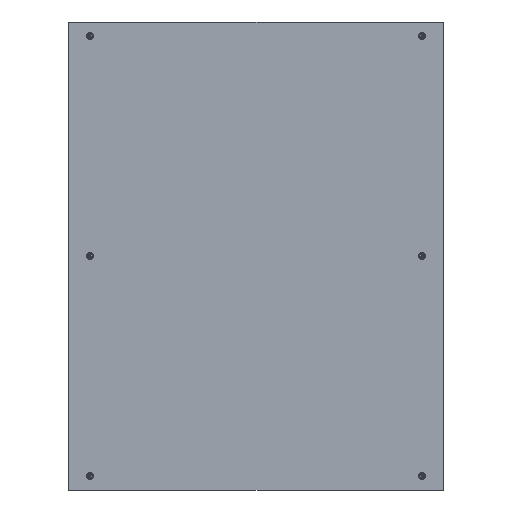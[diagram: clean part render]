
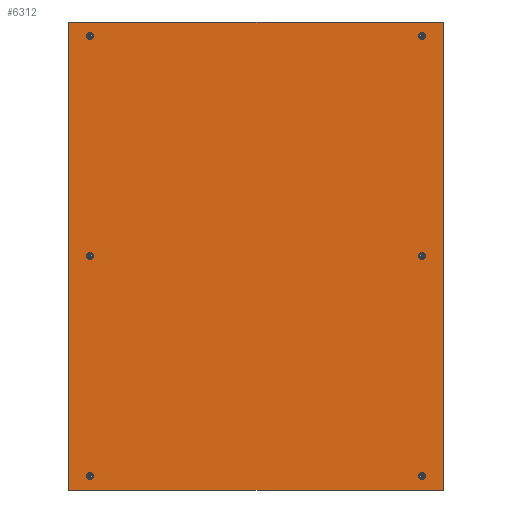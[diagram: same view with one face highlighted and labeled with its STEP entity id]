
A CAD part, left-side view. The second image highlights one B-rep face of the part: STEP entity #6312.
In plain terms, the highlighted planar face has unit normal (-1, 0, 0).
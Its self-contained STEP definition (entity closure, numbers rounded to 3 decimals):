
#533=CIRCLE('',#8146,5.125);
#535=CIRCLE('',#8149,5.125);
#537=CIRCLE('',#8152,5.125);
#539=CIRCLE('',#8155,5.125);
#541=CIRCLE('',#8158,5.125);
#542=CIRCLE('',#8191,5.125);
#1871=ORIENTED_EDGE('',*,*,#2952,.T.);
#1872=ORIENTED_EDGE('',*,*,#2953,.T.);
#1873=ORIENTED_EDGE('',*,*,#2954,.T.);
#1874=ORIENTED_EDGE('',*,*,#2955,.T.);
#1875=ORIENTED_EDGE('',*,*,#2834,.F.);
#1876=ORIENTED_EDGE('',*,*,#2836,.F.);
#1877=ORIENTED_EDGE('',*,*,#2838,.F.);
#1878=ORIENTED_EDGE('',*,*,#2840,.F.);
#1879=ORIENTED_EDGE('',*,*,#2842,.F.);
#1880=ORIENTED_EDGE('',*,*,#2956,.F.);
#2834=EDGE_CURVE('',#3491,#3491,#533,.T.);
#2836=EDGE_CURVE('',#3493,#3493,#535,.T.);
#2838=EDGE_CURVE('',#3495,#3495,#537,.T.);
#2840=EDGE_CURVE('',#3497,#3497,#539,.T.);
#2842=EDGE_CURVE('',#3499,#3499,#541,.T.);
#2952=EDGE_CURVE('',#3582,#3583,#4186,.T.);
#2953=EDGE_CURVE('',#3583,#3584,#4187,.T.);
#2954=EDGE_CURVE('',#3584,#3585,#4188,.T.);
#2955=EDGE_CURVE('',#3585,#3582,#4189,.T.);
#2956=EDGE_CURVE('',#3586,#3586,#542,.T.);
#3491=VERTEX_POINT('',#11400);
#3493=VERTEX_POINT('',#11405);
#3495=VERTEX_POINT('',#11410);
#3497=VERTEX_POINT('',#11415);
#3499=VERTEX_POINT('',#11420);
#3582=VERTEX_POINT('',#11645);
#3583=VERTEX_POINT('',#11646);
#3584=VERTEX_POINT('',#11648);
#3585=VERTEX_POINT('',#11650);
#3586=VERTEX_POINT('',#11653);
#4186=LINE('',#11644,#4792);
#4187=LINE('',#11647,#4793);
#4188=LINE('',#11649,#4794);
#4189=LINE('',#11651,#4795);
#4792=VECTOR('',#9771,1000.);
#4793=VECTOR('',#9772,1000.);
#4794=VECTOR('',#9773,1000.);
#4795=VECTOR('',#9774,1000.);
#5223=EDGE_LOOP('',(#1871,#1872,#1873,#1874));
#5224=EDGE_LOOP('',(#1875));
#5225=EDGE_LOOP('',(#1876));
#5226=EDGE_LOOP('',(#1877));
#5227=EDGE_LOOP('',(#1878));
#5228=EDGE_LOOP('',(#1879));
#5229=EDGE_LOOP('',(#1880));
#5675=FACE_BOUND('',#5223,.T.);
#5676=FACE_BOUND('',#5224,.T.);
#5677=FACE_BOUND('',#5225,.T.);
#5678=FACE_BOUND('',#5226,.T.);
#5679=FACE_BOUND('',#5227,.T.);
#5680=FACE_BOUND('',#5228,.T.);
#5681=FACE_BOUND('',#5229,.T.);
#5984=PLANE('',#8190);
#6312=ADVANCED_FACE('',(#5675,#5676,#5677,#5678,#5679,#5680,#5681),#5984,
 .T.);
#8146=AXIS2_PLACEMENT_3D('',#11399,#9572,#9573);
#8149=AXIS2_PLACEMENT_3D('',#11404,#9578,#9579);
#8152=AXIS2_PLACEMENT_3D('',#11409,#9584,#9585);
#8155=AXIS2_PLACEMENT_3D('',#11414,#9590,#9591);
#8158=AXIS2_PLACEMENT_3D('',#11419,#9596,#9597);
#8190=AXIS2_PLACEMENT_3D('',#11643,#9769,#9770);
#8191=AXIS2_PLACEMENT_3D('',#11652,#9775,#9776);
#9572=DIRECTION('',(-1.,0.,0.));
#9573=DIRECTION('',(0.,-1.,0.));
#9578=DIRECTION('',(-1.,0.,0.));
#9579=DIRECTION('',(0.,-1.,0.));
#9584=DIRECTION('',(-1.,0.,0.));
#9585=DIRECTION('',(0.,-1.,0.));
#9590=DIRECTION('',(-1.,0.,0.));
#9591=DIRECTION('',(0.,-1.,0.));
#9596=DIRECTION('',(-1.,0.,0.));
#9597=DIRECTION('',(0.,-1.,0.));
#9769=DIRECTION('',(-1.,0.,0.));
#9770=DIRECTION('',(0.,-1.,0.));
#9771=DIRECTION('',(0.,0.,-1.));
#9772=DIRECTION('',(0.,-1.,0.));
#9773=DIRECTION('',(0.,0.,1.));
#9774=DIRECTION('',(0.,1.,0.));
#9775=DIRECTION('',(-1.,0.,0.));
#9776=DIRECTION('',(0.,-1.,0.));
#11399=CARTESIAN_POINT('',(-1.5,355.,-470.));
#11400=CARTESIAN_POINT('',(-1.5,349.875,-470.));
#11404=CARTESIAN_POINT('',(-1.5,355.,0.));
#11405=CARTESIAN_POINT('',(-1.5,349.875,0.));
#11409=CARTESIAN_POINT('',(-1.5,355.,470.));
#11410=CARTESIAN_POINT('',(-1.5,349.875,470.));
#11414=CARTESIAN_POINT('',(-1.5,-355.,-470.));
#11415=CARTESIAN_POINT('',(-1.5,-360.125,-470.));
#11419=CARTESIAN_POINT('',(-1.5,-355.,0.));
#11420=CARTESIAN_POINT('',(-1.5,-360.125,0.));
#11643=CARTESIAN_POINT('',(-1.5,0.,0.));
#11644=CARTESIAN_POINT('',(-1.5,400.,0.));
#11645=CARTESIAN_POINT('',(-1.5,400.,500.));
#11646=CARTESIAN_POINT('',(-1.5,400.,-500.));
#11647=CARTESIAN_POINT('',(-1.5,0.,-500.));
#11648=CARTESIAN_POINT('',(-1.5,-400.,-500.));
#11649=CARTESIAN_POINT('',(-1.5,-400.,0.));
#11650=CARTESIAN_POINT('',(-1.5,-400.,500.));
#11651=CARTESIAN_POINT('',(-1.5,0.,500.));
#11652=CARTESIAN_POINT('',(-1.5,-355.,470.));
#11653=CARTESIAN_POINT('',(-1.5,-360.125,470.));
